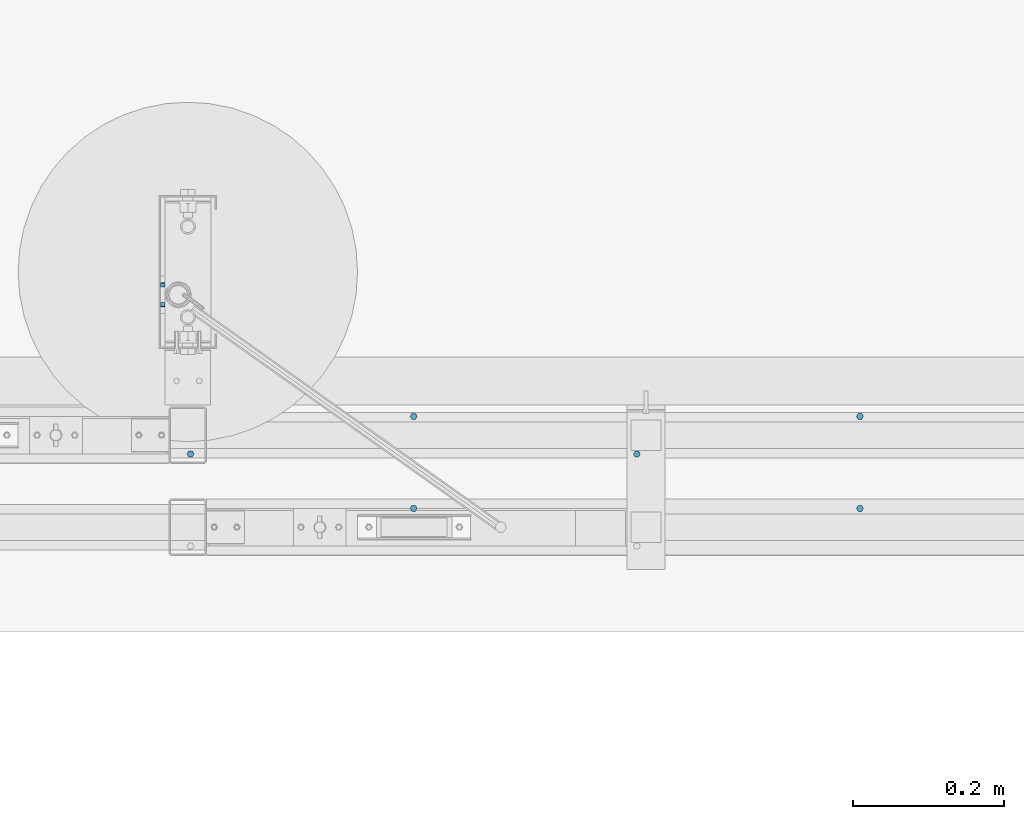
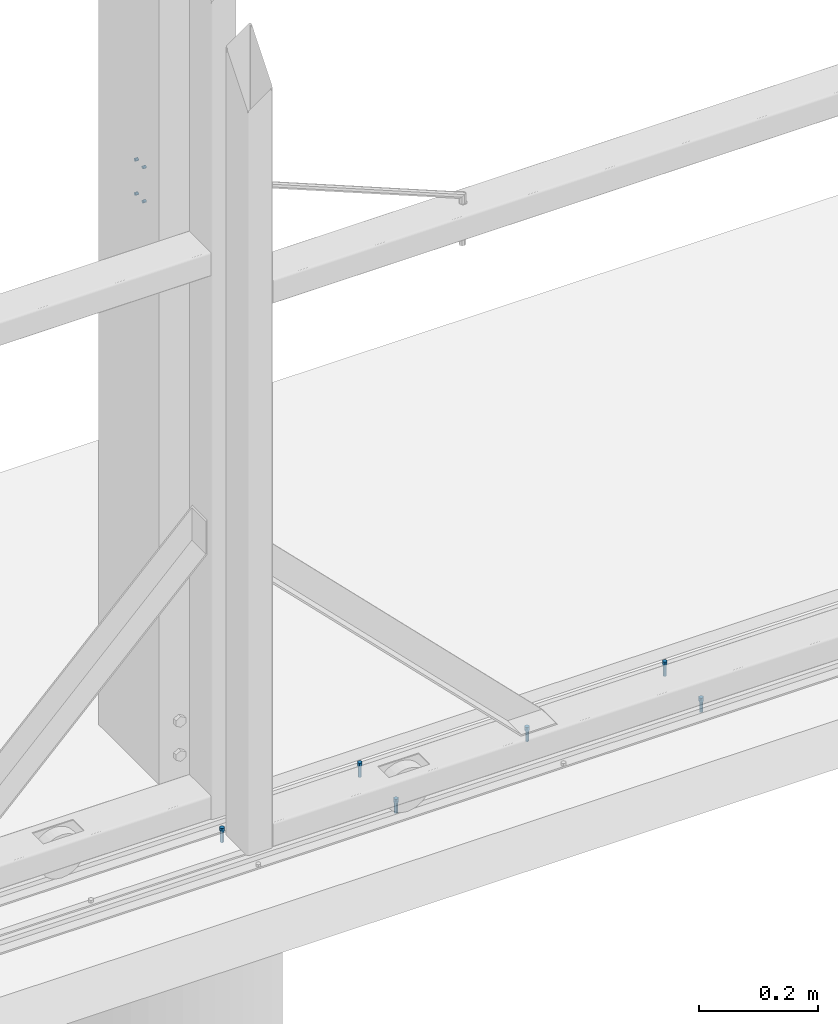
# One storey, part 41 of 91: 10 mechanical fasteners, 3 elements without a shape of their own.
"""IFC2X3 building model written with IfcOpenShell, lengths in millimetres."""

from ifc_helpers import new_model, si_unit, frame, origin_with_axes, origin_2d_with_axis, place, context, subcontext, project, spatial, polyline, circle, outline, extrude, source, transform, mapped, material, type_object, element, aggregate, save


model = new_model("IFC2X3")

# Units and contexts
model_context = context("Model", 3, precision=1e-05, world=origin_with_axes())
body_context = subcontext(model_context, "Body", "Model", "MODEL_VIEW")
ifc_project = project(units=[si_unit("LENGTHUNIT", "METRE", prefix="MILLI"), si_unit("AREAUNIT", "SQUARE_METRE"), si_unit("VOLUMEUNIT", "CUBIC_METRE"), si_unit("MASSUNIT", "GRAM", prefix="KILO"), si_unit("TIMEUNIT", "SECOND"), si_unit("PLANEANGLEUNIT", "RADIAN"), si_unit("SOLIDANGLEUNIT", "STERADIAN"), si_unit("THERMODYNAMICTEMPERATUREUNIT", "DEGREE_CELSIUS"), si_unit("LUMINOUSINTENSITYUNIT", "LUMEN")], contexts=[model_context])

# Site, building, storey
site_placement = place(None, origin_with_axes())
site = spatial("IfcSite", under=ifc_project, at=site_placement, Name="Undefined", CompositionType="ELEMENT")
building_placement = place(site_placement, origin_with_axes())
building = spatial("IfcBuilding", under=site, at=building_placement, Name="Undefined", CompositionType="ELEMENT")
storey_placement = place(building_placement, origin_with_axes())
storey = spatial("IfcBuildingStorey", under=building, at=storey_placement, Name="Undefined", CompositionType="ELEMENT", Elevation=0.0)

# Assembly, mechanical fasteners
assembly_1_placement = place(storey_placement, origin_with_axes())
assembly_1 = element("IfcElementAssembly", 1, at=assembly_1_placement, inside=storey, Name="PLATE", AssemblyPlace="NOTDEFINED", PredefinedType="RIGID_FRAME")
ifc_material_1 = material(Name="8.8S")
discrete_accessory_type = type_object("IfcDiscreteAccessoryType", Name="Bolt assembly")
shared_shape_1 = source(origin_with_axes(), body_context, "Body", "SweptSolid", [
    extrude(circle(Radius=3.0, at=origin_2d_with_axis()), frame((0.0, 0.0, 0.0), z_axis=(0.0, 1.0, 0.0), x_axis=(1.0, 0.0, 0.0)), (0.0, 0.0, 1.0), 6.1),
])
mechanical_fastener_1_placement = place(assembly_1_placement, frame((-113788.442606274, 87911.4017781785, 1127.34478745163), z_axis=(0.0, -1.0, 0.0), x_axis=(0.0, 0.0, 1.0)))
mechanical_fastener_1 = element("IfcMechanicalFastener", 2, at=mechanical_fastener_1_placement, type_object=discrete_accessory_type, material=ifc_material_1, Name="Bolt assembly", NominalDiameter=6.0, NominalLength=6.0, context=body_context, shape_type="MappedRepresentation", body=[
    mapped(shared_shape_1, transform((0.0, 0.0, 0.0))),
])
mechanical_fastener_2_placement = place(assembly_1_placement, frame((-113788.442606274, 87885.3982218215, 1127.34478745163), z_axis=(0.0, -1.0, 0.0), x_axis=(0.0, 0.0, 1.0)))
mechanical_fastener_2 = element("IfcMechanicalFastener", 3, at=mechanical_fastener_2_placement, type_object=discrete_accessory_type, material=ifc_material_1, Name="Bolt assembly", NominalDiameter=6.0, NominalLength=6.0, context=body_context, shape_type="MappedRepresentation", body=[
    mapped(shared_shape_1, transform((0.0, 0.0, 0.0))),
])
mechanical_fastener_3_placement = place(assembly_1_placement, frame((-113788.442606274, 87911.4017781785, 1197.34), z_axis=(0.0, 1.0, 0.0), x_axis=(0.0, 0.0, -1.0)))
mechanical_fastener_3 = element("IfcMechanicalFastener", 4, at=mechanical_fastener_3_placement, type_object=discrete_accessory_type, material=ifc_material_1, Name="Bolt assembly", NominalDiameter=6.0, NominalLength=6.0, context=body_context, shape_type="MappedRepresentation", body=[
    mapped(shared_shape_1, transform((0.0, 0.0, 0.0))),
])
mechanical_fastener_4_placement = place(assembly_1_placement, frame((-113788.442606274, 87885.3982218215, 1197.34), z_axis=(0.0, 1.0, 0.0), x_axis=(0.0, 0.0, -1.0)))
mechanical_fastener_4 = element("IfcMechanicalFastener", 5, at=mechanical_fastener_4_placement, type_object=discrete_accessory_type, material=ifc_material_1, Name="Bolt assembly", NominalDiameter=6.0, NominalLength=6.0, context=body_context, shape_type="MappedRepresentation", body=[
    mapped(shared_shape_1, transform((0.0, 0.0, 0.0))),
])
aggregate(assembly_1, [mechanical_fastener_1, mechanical_fastener_2, mechanical_fastener_3, mechanical_fastener_4])

assembly_2_placement = place(storey_placement, origin_with_axes())
assembly_2 = element("IfcElementAssembly", 6, at=assembly_2_placement, inside=storey, Name="DOOR TRACK", AssemblyPlace="NOTDEFINED", PredefinedType="RIGID_FRAME")
ifc_material_2 = material(Name="TEK_10TPII")
shared_shape_2 = source(origin_with_axes(), body_context, "Body", "SweptSolid", [
    extrude(circle(Radius=4.07999992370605, at=origin_2d_with_axis()), frame((0.0, 0.0, 0.0), z_axis=(0.0, 1.0, 0.0), x_axis=(1.0, 0.0, 0.0)), (0.0, 0.0, 1.0), 3.1),
    extrude(outline(polyline([(4.61880215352, 0.0), (2.30940107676, 4.00000000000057), (-2.30940107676, 4.00000000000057), (-4.61880215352, 0.0), (-2.30940107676, -4.00000000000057), (2.30940107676, -4.00000000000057), (4.61880215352, 0.0)])), frame((0.0, -5.0, 0.0), z_axis=(0.0, 1.0, 0.0), x_axis=(1.0, 0.0, 0.0)), (0.0, 0.0, 1.0), 5.0),
    extrude(circle(Radius=3.07999992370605, at=origin_2d_with_axis()), frame((0.0, 0.0, 0.0), z_axis=(0.0, 1.0, 0.0), x_axis=(1.0, 0.0, 0.0)), (0.0, 0.0, 1.0), 25.0),
    extrude(circle(Radius=3.0, at=origin_2d_with_axis()), frame((0.0, 3.0, 0.0), z_axis=(0.0, 1.0, 0.0), x_axis=(1.0, 0.0, 0.0)), (0.0, 0.0, 1.0), 0.1),
    extrude(outline(polyline([(3.46410161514, 0.0), (1.73205080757, 3.00000000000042), (-1.73205080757, 3.00000000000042), (-3.46410161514, 0.0), (-1.73205080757, -3.00000000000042), (1.73205080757, -3.00000000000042), (3.46410161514, 0.0)])), frame((0.0, 3.10000000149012, 0.0), z_axis=(0.0, 1.0, 0.0), x_axis=(1.0, 0.0, 0.0)), (0.0, 0.0, 1.0), 0.1),
])
mechanical_fastener_5_placement = place(assembly_2_placement, frame((-112867.14, 87737.151953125, -54.0), z_axis=(0.0, 1.0, 0.0), x_axis=(1.0, 0.0, 0.0)))
mechanical_fastener_5 = element("IfcMechanicalFastener", 7, at=mechanical_fastener_5_placement, type_object=discrete_accessory_type, material=ifc_material_2, Name="Bolt assembly", NominalDiameter=6.15999984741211, NominalLength=25.0, context=body_context, shape_type="MappedRepresentation", body=[
    mapped(shared_shape_2, transform((0.0, 0.0, 0.0))),
])
mechanical_fastener_6_placement = place(assembly_2_placement, frame((-113163.04, 87687.151953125, -54.0), z_axis=(0.0, 1.0, 0.0), x_axis=(1.0, 0.0, 0.0)))
mechanical_fastener_6 = element("IfcMechanicalFastener", 8, at=mechanical_fastener_6_placement, type_object=discrete_accessory_type, material=ifc_material_2, Name="Bolt assembly", NominalDiameter=6.15999984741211, NominalLength=25.0, context=body_context, shape_type="MappedRepresentation", body=[
    mapped(shared_shape_2, transform((0.0, 0.0, 0.0))),
])
mechanical_fastener_7_placement = place(assembly_2_placement, frame((-113458.94, 87737.151953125, -54.0), z_axis=(0.0, 1.0, 0.0), x_axis=(1.0, 0.0, 0.0)))
mechanical_fastener_7 = element("IfcMechanicalFastener", 9, at=mechanical_fastener_7_placement, type_object=discrete_accessory_type, material=ifc_material_2, Name="Bolt assembly", NominalDiameter=6.15999984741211, NominalLength=25.0, context=body_context, shape_type="MappedRepresentation", body=[
    mapped(shared_shape_2, transform((0.0, 0.0, 0.0))),
])
mechanical_fastener_8_placement = place(assembly_2_placement, frame((-113754.84, 87687.151953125, -54.0), z_axis=(0.0, 1.0, 0.0), x_axis=(1.0, 0.0, 0.0)))
mechanical_fastener_8 = element("IfcMechanicalFastener", 10, at=mechanical_fastener_8_placement, type_object=discrete_accessory_type, material=ifc_material_2, Name="Bolt assembly", NominalDiameter=6.15999984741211, NominalLength=25.0, context=body_context, shape_type="MappedRepresentation", body=[
    mapped(shared_shape_2, transform((0.0, 0.0, 0.0))),
])
aggregate(assembly_2, [mechanical_fastener_5, mechanical_fastener_6, mechanical_fastener_7, mechanical_fastener_8])

assembly_3_placement = place(storey_placement, origin_with_axes())
assembly_3 = element("IfcElementAssembly", 11, at=assembly_3_placement, inside=storey, Name="DOOR TRACK", AssemblyPlace="NOTDEFINED", PredefinedType="RIGID_FRAME")
mechanical_fastener_9_placement = place(assembly_3_placement, frame((-112867.14, 87615.151953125, -54.0), z_axis=(0.0, 1.0, 0.0), x_axis=(1.0, 0.0, 0.0)))
mechanical_fastener_9 = element("IfcMechanicalFastener", 12, at=mechanical_fastener_9_placement, type_object=discrete_accessory_type, material=ifc_material_2, Name="Bolt assembly", NominalDiameter=6.15999984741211, NominalLength=25.0, context=body_context, shape_type="MappedRepresentation", body=[
    mapped(shared_shape_2, transform((0.0, 0.0, 0.0))),
])
mechanical_fastener_10_placement = place(assembly_3_placement, frame((-113458.94, 87615.151953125, -54.0), z_axis=(0.0, 1.0, 0.0), x_axis=(1.0, 0.0, 0.0)))
mechanical_fastener_10 = element("IfcMechanicalFastener", 13, at=mechanical_fastener_10_placement, type_object=discrete_accessory_type, material=ifc_material_2, Name="Bolt assembly", NominalDiameter=6.15999984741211, NominalLength=25.0, context=body_context, shape_type="MappedRepresentation", body=[
    mapped(shared_shape_2, transform((0.0, 0.0, 0.0))),
])
aggregate(assembly_3, [mechanical_fastener_9, mechanical_fastener_10])

save(model, "model.ifc")
